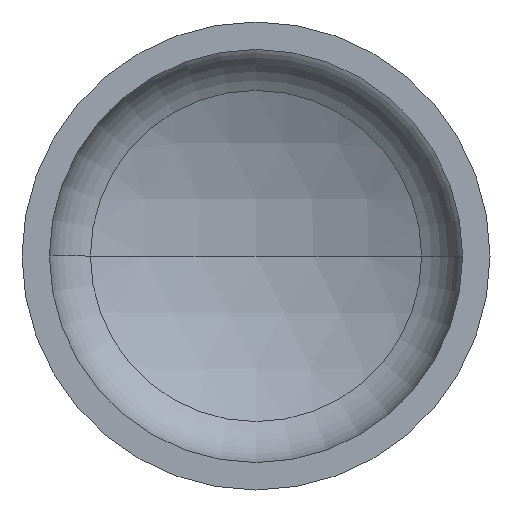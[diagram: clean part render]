
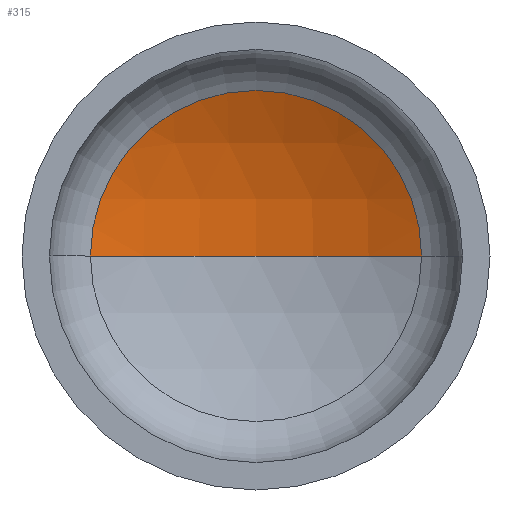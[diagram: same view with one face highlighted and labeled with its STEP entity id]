
A CAD part, front view. The second image highlights one B-rep face of the part: STEP entity #315.
In plain terms, the highlighted spherical face has radius 560 mm.
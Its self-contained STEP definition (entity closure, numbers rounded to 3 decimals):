
#22 = VERTEX_POINT ( 'NONE', #316 ) ;
#50 = CIRCLE ( 'NONE', #341, 560. ) ;
#60 = VERTEX_POINT ( 'NONE', #234 ) ;
#65 = DIRECTION ( 'NONE',  ( 0., 0., 1. ) ) ;
#82 = AXIS2_PLACEMENT_3D ( 'NONE', #295, #124, #324 ) ;
#83 = CARTESIAN_POINT ( 'NONE',  ( 0., -273.607, 0. ) ) ;
#88 = EDGE_LOOP ( 'NONE', ( #266, #132, #112 ) ) ;
#104 = VERTEX_POINT ( 'NONE', #180 ) ;
#112 = ORIENTED_EDGE ( 'NONE', *, *, #207, .T. ) ;
#124 = DIRECTION ( 'NONE',  ( 0., 0., -1. ) ) ;
#126 = CARTESIAN_POINT ( 'NONE',  ( 0., 228.66, 0. ) ) ;
#132 = ORIENTED_EDGE ( 'NONE', *, *, #184, .T. ) ;
#145 = AXIS2_PLACEMENT_3D ( 'NONE', #126, #325, #154 ) ;
#147 = CIRCLE ( 'NONE', #145, 247.644 ) ;
#154 = DIRECTION ( 'NONE',  ( 1., 0., 0. ) ) ;
#164 = EDGE_CURVE ( 'NONE', #60, #22, #50, .T. ) ;
#180 = CARTESIAN_POINT ( 'NONE',  ( 247.644, 228.66, 0. ) ) ;
#184 = EDGE_CURVE ( 'NONE', #60, #104, #232, .T. ) ;
#207 = EDGE_CURVE ( 'NONE', #104, #22, #147, .T. ) ;
#232 = CIRCLE ( 'NONE', #82, 560. ) ;
#234 = CARTESIAN_POINT ( 'NONE',  ( 0., 286.393, 0. ) ) ;
#266 = ORIENTED_EDGE ( 'NONE', *, *, #164, .F. ) ;
#267 = CARTESIAN_POINT ( 'NONE',  ( 0., -273.607, 0. ) ) ;
#272 = SPHERICAL_SURFACE ( 'NONE', #394, 560. ) ;
#281 = FACE_OUTER_BOUND ( 'NONE', #88, .T. ) ;
#294 = DIRECTION ( 'NONE',  ( 1., 0., 0. ) ) ;
#295 = CARTESIAN_POINT ( 'NONE',  ( 0., -273.607, 0. ) ) ;
#315 = ADVANCED_FACE ( 'NONE', ( #281 ), #272, .F. ) ;
#316 = CARTESIAN_POINT ( 'NONE',  ( -247.644, 228.66, 0. ) ) ;
#324 = DIRECTION ( 'NONE',  ( -1., 0., 0. ) ) ;
#325 = DIRECTION ( 'NONE',  ( 0., -1., 0. ) ) ;
#341 = AXIS2_PLACEMENT_3D ( 'NONE', #267, #65, #294 ) ;
#356 = DIRECTION ( 'NONE',  ( -1., 0., 0. ) ) ;
#394 = AXIS2_PLACEMENT_3D ( 'NONE', #83, #403, #356 ) ;
#403 = DIRECTION ( 'NONE',  ( 0., 0., -1. ) ) ;
